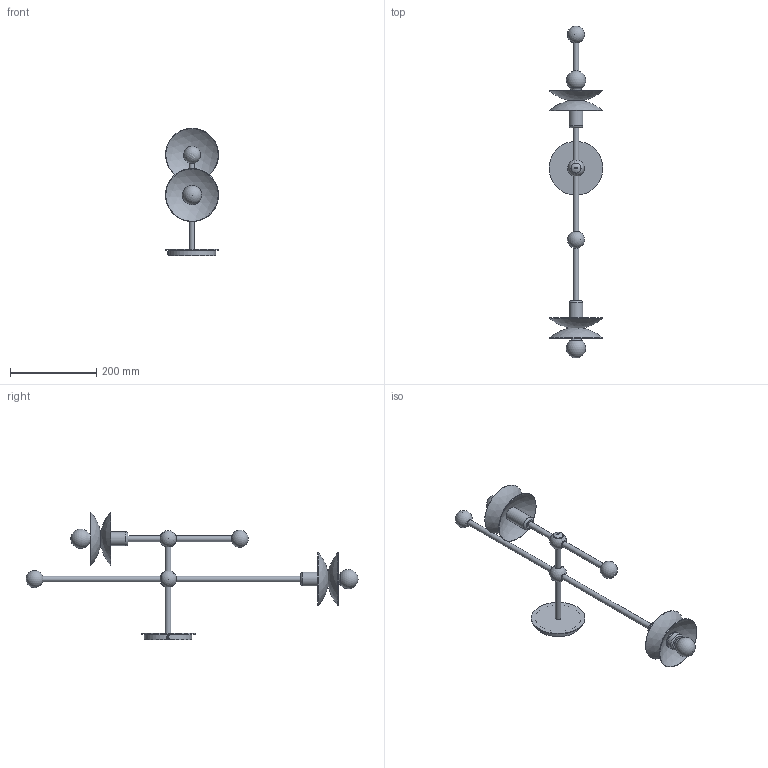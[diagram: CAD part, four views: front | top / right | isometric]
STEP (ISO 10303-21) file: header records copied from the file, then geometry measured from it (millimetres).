
FILE_DESCRIPTION(/* description */ (''),/* implementation_level */ '2;1');
FILE_NAME(/* name */ '260327_B_B766 Babylon Double.stp',/* time_stamp */ '2026-03-27T10:36:13+01:00',/* author */ ('Dominik'),/* organization */ (''),/* preprocessor_version */ 'ST-DEVELOPER v20.1',/* originating_system */ 'Autodesk Inventor 2026',/* authorisation */ '');
FILE_SCHEMA (('AUTOMOTIVE_DESIGN { 1 0 10303 214 3 1 1 }'));
Length unit declared in the file: millimetre
Products named in the file (1): B766 jako część
Bounding box: 125 x 771.37 x 295.87 mm (x, y, z)
Volume: 691377.2 mm3; surface area: 228514.3 mm2
Topology: 5 solids, 5 shells, 120 faces, 236 edges, 152 vertices
Faces by surface type: cylinder 42, plane 41, sphere 18, torus 11, cone 5, bspline 3
Full cylindrical faces by diameter (mm): 7.6 x1, 11.6 x3, 11.917 x1, 12 x2, 13 x8, 13.5 x6, 23.1 x2, 23.5 x2, 28 x2, 29 x4, 32 x2, 39.5 x4, 125 x1
Entity records: 3876 total; most frequent: CARTESIAN_POINT 1042, DIRECTION 606, ORIENTED_EDGE 452, AXIS2_PLACEMENT_3D 275, EDGE_CURVE 226, EDGE_LOOP 164, CIRCLE 157, VERTEX_POINT 152
